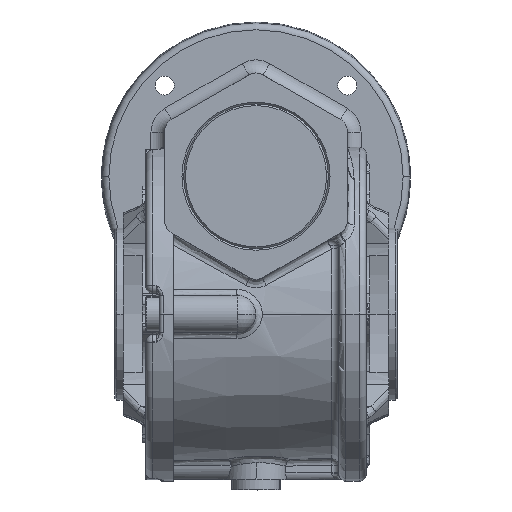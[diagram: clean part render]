
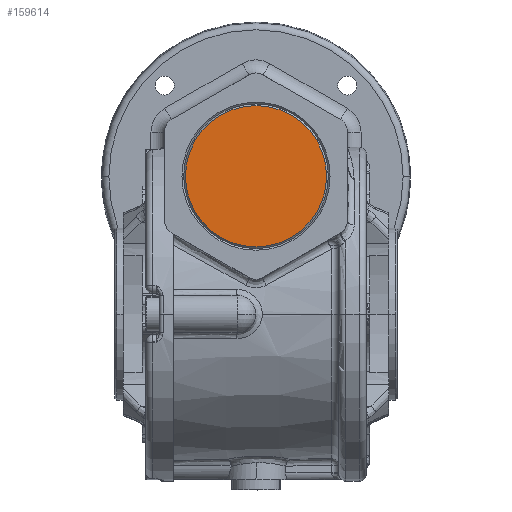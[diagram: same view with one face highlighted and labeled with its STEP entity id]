
A CAD part, top view. The second image highlights one B-rep face of the part: STEP entity #159614.
In plain terms, the highlighted planar face has unit normal (0, 0, 1).
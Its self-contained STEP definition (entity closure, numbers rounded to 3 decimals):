
#159079 = EDGE_CURVE ( 'NONE', #159080, #159098, #166279, .T. ) ;
#159080 = VERTEX_POINT ( 'NONE', #166271 ) ;
#159098 = VERTEX_POINT ( 'NONE', #166394 ) ;
#159541 = EDGE_CURVE ( 'NONE', #159098, #159080, #167370, .T. ) ;
#159614 = ADVANCED_FACE ( 'NONE', ( #171006 ), #171005, .T. ) ;
#159617 = EDGE_LOOP ( 'NONE', ( #159624, #159625 ) ) ;
#159624 = ORIENTED_EDGE ( 'NONE', *, *, #159079, .F. ) ;
#159625 = ORIENTED_EDGE ( 'NONE', *, *, #159541, .F. ) ;
#166271 = CARTESIAN_POINT ( 'NONE',  ( 0., 20.5, 57. ) ) ;
#166272 = DIRECTION ( 'NONE',  ( 0., 1., 0. ) ) ;
#166273 = DIRECTION ( 'NONE',  ( 0., 0., -1. ) ) ;
#166275 = CARTESIAN_POINT ( 'NONE',  ( 0., 0., 57. ) ) ;
#166277 = AXIS2_PLACEMENT_3D ( 'NONE', #166275, #166273, #166272 ) ;
#166279 = CIRCLE ( 'NONE', #166277, 20.5 ) ;
#166394 = CARTESIAN_POINT ( 'NONE',  ( 0., -20.5, 57. ) ) ;
#167246 = DIRECTION ( 'NONE',  ( 0., 1., 0. ) ) ;
#167249 = DIRECTION ( 'NONE',  ( 0., 0., -1. ) ) ;
#167251 = CARTESIAN_POINT ( 'NONE',  ( 0., 0., 57. ) ) ;
#167368 = AXIS2_PLACEMENT_3D ( 'NONE', #167251, #167249, #167246 ) ;
#167370 = CIRCLE ( 'NONE', #167368, 20.5 ) ;
#170995 = DIRECTION ( 'NONE',  ( 0., -1., 0. ) ) ;
#170996 = DIRECTION ( 'NONE',  ( 0., 0., 1. ) ) ;
#170998 = CARTESIAN_POINT ( 'NONE',  ( 0., 0., 57. ) ) ;
#171000 = AXIS2_PLACEMENT_3D ( 'NONE', #170998, #170996, #170995 ) ;
#171005 = PLANE ( 'NONE',  #171000 ) ;
#171006 = FACE_OUTER_BOUND ( 'NONE', #159617, .T. ) ;
